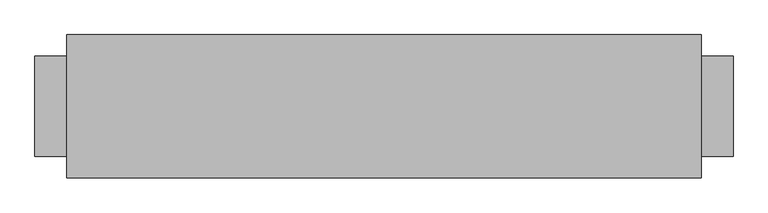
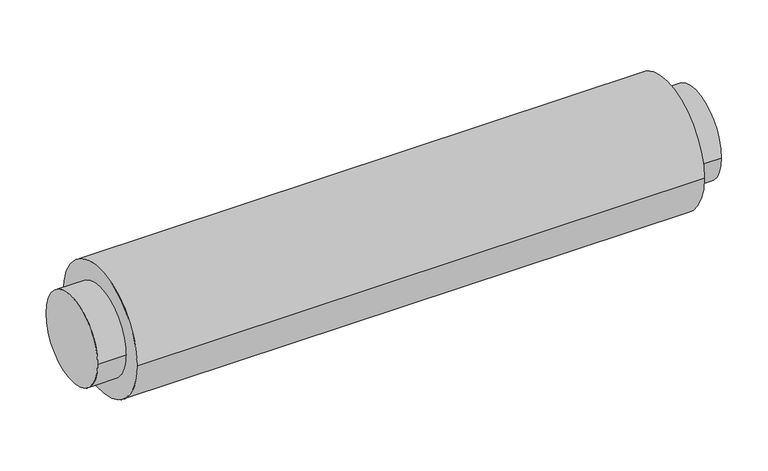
"""IFC4 building model written with IfcOpenShell, lengths in millimetres: damper geometry, VE-Tłumik_Akustyczny-ParaForma-Harmann-FLEXITEC : 160-1000."""

from ifc_helpers import new_model, si_unit, point, frame, origin, origin_2d, place, context, project, spatial, circle_curve, trimmed, segment, composite_curve, outline, extrude, source, transform, mapped, element, save


def damper_82dc4f44(model_context):
    return source(origin(), model_context, "Body", "SweptSolid", [
        extrude(outline(composite_curve([segment(trimmed(circle_curve(origin_2d(), 79.0), [point((-79.0, 0.0))], [point((79.0, 0.0))], False, "CARTESIAN"), True, "CONTINUOUS"), segment(trimmed(circle_curve(origin_2d(), 79.0), [point((79.0, 0.0))], [point((-79.0, 0.0))], False, "CARTESIAN"), True, "CONTINUOUS")], self_intersect=False)), frame((500.0, 0.0, 0.0), z_axis=(1.0, 0.0, 0.0), x_axis=(0.0, 1.0, 0.0)), (0.0, 0.0, 1.0), 50.0),
        extrude(outline(composite_curve([segment(trimmed(circle_curve(origin_2d(), 79.0), [point((-79.0, 0.0))], [point((79.0, 0.0))], False, "CARTESIAN"), True, "CONTINUOUS"), segment(trimmed(circle_curve(origin_2d(), 79.0), [point((79.0, 0.0))], [point((-79.0, 0.0))], False, "CARTESIAN"), True, "CONTINUOUS")], self_intersect=False)), frame((-550.0, 0.0, 0.0), z_axis=(1.0, 0.0, 0.0), x_axis=(0.0, 1.0, 0.0)), (0.0, 0.0, 1.0), 50.0),
        extrude(outline(composite_curve([segment(trimmed(circle_curve(origin_2d(), 112.95), [point((-112.95, 0.0))], [point((112.95, 0.0))], False, "CARTESIAN"), True, "CONTINUOUS"), segment(trimmed(circle_curve(origin_2d(), 112.95), [point((112.95, 0.0))], [point((-112.95, 0.0))], False, "CARTESIAN"), True, "CONTINUOUS")], self_intersect=False)), frame((-500.0, 0.0, 0.0), z_axis=(1.0, 0.0, 0.0), x_axis=(0.0, 1.0, 0.0)), (0.0, 0.0, 1.0), 1000.0),
    ])


if __name__ == "__main__":
    model = new_model("IFC4")
    model_context = context("Model", 3, world=origin())
    ifc_project = project(units=[si_unit("LENGTHUNIT", "METRE", prefix="MILLI")], contexts=[model_context])
    site = spatial("IfcSite", under=ifc_project)
    building = spatial("IfcBuilding", under=site)
    placement = place(None, origin())
    damper_shape = damper_82dc4f44(model_context)
    element("IfcDamper", 1, ObjectType="VE-Tłumik_Akustyczny-ParaForma-Harmann-FLEXITEC : 160-1000", at=placement, inside=building, context=model_context, shape_type="MappedRepresentation", body=[
        mapped(damper_shape, transform((0.0, 0.0, 0.0), x_axis=(1.0, 0.0, 0.0), y_axis=(0.0, 1.0, 0.0), z_axis=(0.0, 0.0, 1.0))),
    ])
    save(model, "model.ifc")
